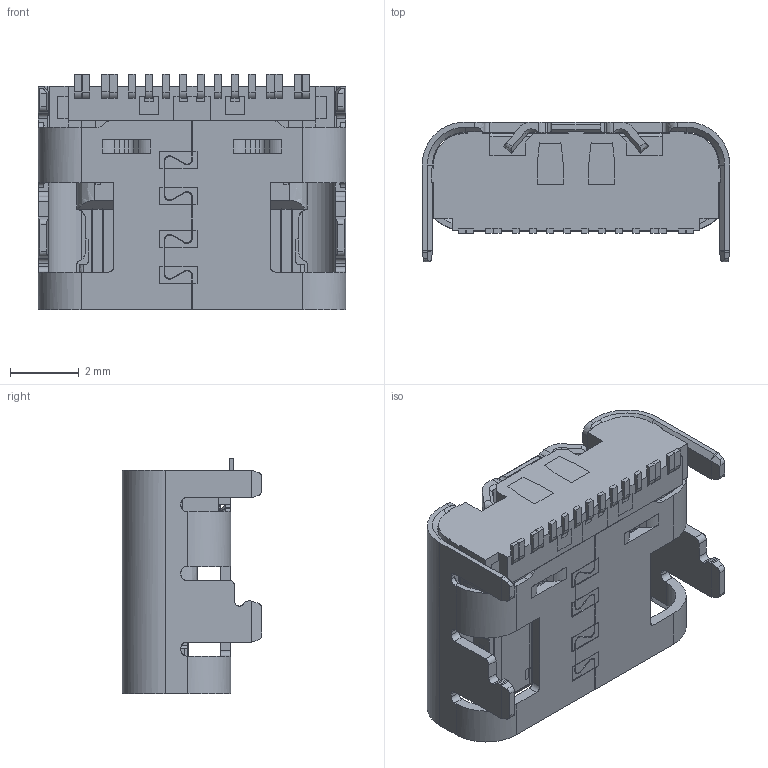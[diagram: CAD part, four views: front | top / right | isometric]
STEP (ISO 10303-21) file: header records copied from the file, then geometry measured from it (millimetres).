
FILE_DESCRIPTION (( 'STEP AP203' ), '1' );
FILE_NAME ('GT-USB-7010B.STEP', '2023-04-12T10:07:49', ( '' ), ( '' ), 'SwSTEP 2.0', 'SolidWorks 2023', '' );
FILE_SCHEMA (( 'CONFIG_CONTROL_DESIGN' ));
Products named in the file (1): GT-USB-7010B
Bounding box: 8.94 x 4.06 x 6.85 mm (x, y, z)
Surface area: 850.5 mm2 (no closed solid volume)
Topology: 0 solids, 1638 shells, 3544 faces, 19169 edges, 17118 vertices
Faces by surface type: bspline 3544
Entity records: 177655 total; most frequent: CARTESIAN_POINT 86111, ORIENTED_EDGE 22800, EDGE_CURVE 19167, B_SPLINE_CURVE_WITH_KNOTS 17239, VERTEX_POINT 17118, EDGE_LOOP 3694, ADVANCED_FACE 3544, FACE_OUTER_BOUND 3544
